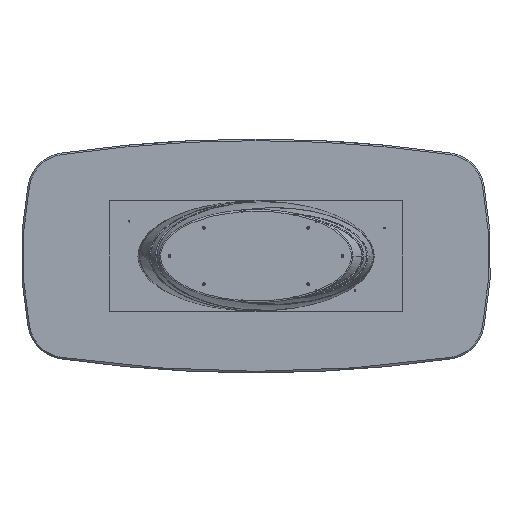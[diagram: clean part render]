
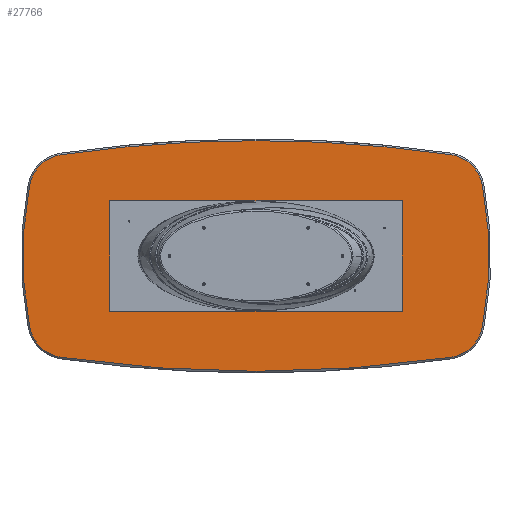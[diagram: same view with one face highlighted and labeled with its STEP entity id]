
A CAD part, front view. The second image highlights one B-rep face of the part: STEP entity #27766.
In plain terms, the highlighted planar face has unit normal (0, -1, 0).
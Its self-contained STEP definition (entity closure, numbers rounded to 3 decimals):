
#253 = VERTEX_POINT ( 'NONE', #37243 ) ;
#862 = CIRCLE ( 'NONE', #10585, 192. ) ;
#972 = CARTESIAN_POINT ( 'NONE',  ( 963.472, 50., 325.885 ) ) ;
#1480 = CIRCLE ( 'NONE', #9306, 192. ) ;
#1682 = ORIENTED_EDGE ( 'NONE', *, *, #22500, .T. ) ;
#2405 = CARTESIAN_POINT ( 'NONE',  ( 1151.911, 50., -362.691 ) ) ;
#2560 = CIRCLE ( 'NONE', #10443, 6942. ) ;
#3512 = EDGE_CURVE ( 'NONE', #4484, #36322, #17695, .T. ) ;
#3696 = AXIS2_PLACEMENT_3D ( 'NONE', #12539, #29496, #30053 ) ;
#3808 = AXIS2_PLACEMENT_3D ( 'NONE', #27760, #16531, #22257 ) ;
#4463 = CARTESIAN_POINT ( 'NONE',  ( -990.878, 50., -515.919 ) ) ;
#4484 = VERTEX_POINT ( 'NONE', #33452 ) ;
#5920 = DIRECTION ( 'NONE',  ( 0., 1., 0. ) ) ;
#6233 = ORIENTED_EDGE ( 'NONE', *, *, #21242, .T. ) ;
#6295 = CARTESIAN_POINT ( 'NONE',  ( -481.736, 50., -3014.558 ) ) ;
#6430 = CARTESIAN_POINT ( 'NONE',  ( 963.472, 50., -325.885 ) ) ;
#7130 = CARTESIAN_POINT ( 'NONE',  ( -963.472, 50., 325.885 ) ) ;
#7313 = DIRECTION ( 'NONE',  ( 0., 0., 1. ) ) ;
#7488 = CIRCLE ( 'NONE', #12375, 1892. ) ;
#8101 = CIRCLE ( 'NONE', #22720, 192. ) ;
#8375 = DIRECTION ( 'NONE',  ( 0., 0., 1. ) ) ;
#9078 = VERTEX_POINT ( 'NONE', #2405 ) ;
#9306 = AXIS2_PLACEMENT_3D ( 'NONE', #7130, #12667, #7313 ) ;
#10443 = AXIS2_PLACEMENT_3D ( 'NONE', #19406, #28155, #28342 ) ;
#10585 = AXIS2_PLACEMENT_3D ( 'NONE', #6430, #18433, #32895 ) ;
#10647 = ORIENTED_EDGE ( 'NONE', *, *, #13109, .T. ) ;
#11211 = AXIS2_PLACEMENT_3D ( 'NONE', #972, #24948, #24579 ) ;
#11239 = CARTESIAN_POINT ( 'NONE',  ( -963.472, 50., -325.885 ) ) ;
#12375 = AXIS2_PLACEMENT_3D ( 'NONE', #20342, #17105, #28719 ) ;
#12539 = CARTESIAN_POINT ( 'NONE',  ( 0., 50., -6355. ) ) ;
#12667 = DIRECTION ( 'NONE',  ( 0., -1., 0. ) ) ;
#12731 = ORIENTED_EDGE ( 'NONE', *, *, #25200, .T. ) ;
#12907 = CARTESIAN_POINT ( 'NONE',  ( 990.878, 50., -515.919 ) ) ;
#13109 = EDGE_CURVE ( 'NONE', #26841, #4484, #2560, .T. ) ;
#16026 = VERTEX_POINT ( 'NONE', #19791 ) ;
#16531 = DIRECTION ( 'NONE',  ( 0., -1., 0. ) ) ;
#17105 = DIRECTION ( 'NONE',  ( 0., -1., 0. ) ) ;
#17177 = DIRECTION ( 'NONE',  ( 0., 0., 1. ) ) ;
#17343 = CARTESIAN_POINT ( 'NONE',  ( -990.878, 50., 515.919 ) ) ;
#17695 = CIRCLE ( 'NONE', #3696, 6942. ) ;
#18433 = DIRECTION ( 'NONE',  ( 0., -1., 0. ) ) ;
#19406 = CARTESIAN_POINT ( 'NONE',  ( 0., 50., -6355. ) ) ;
#19489 = CARTESIAN_POINT ( 'NONE',  ( 990.878, 50., 515.919 ) ) ;
#19664 = CARTESIAN_POINT ( 'NONE',  ( 1151.911, 50., 362.691 ) ) ;
#19791 = CARTESIAN_POINT ( 'NONE',  ( -1151.911, 50., -362.691 ) ) ;
#20342 = CARTESIAN_POINT ( 'NONE',  ( 705., 50., 0. ) ) ;
#20899 = AXIS2_PLACEMENT_3D ( 'NONE', #37341, #34671, #8375 ) ;
#21242 = EDGE_CURVE ( 'NONE', #30596, #30388, #29964, .T. ) ;
#21896 = VERTEX_POINT ( 'NONE', #19664 ) ;
#22257 = DIRECTION ( 'NONE',  ( 0., 0., 1. ) ) ;
#22500 = EDGE_CURVE ( 'NONE', #16026, #30596, #8101, .T. ) ;
#22720 = AXIS2_PLACEMENT_3D ( 'NONE', #11239, #26090, #37699 ) ;
#24579 = DIRECTION ( 'NONE',  ( 0., 0., 1. ) ) ;
#24948 = DIRECTION ( 'NONE',  ( 0., -1., 0. ) ) ;
#25200 = EDGE_CURVE ( 'NONE', #30388, #9078, #862, .T. ) ;
#25792 = AXIS2_PLACEMENT_3D ( 'NONE', #6295, #5920, #17177 ) ;
#26090 = DIRECTION ( 'NONE',  ( 0., -1., 0. ) ) ;
#26488 = ORIENTED_EDGE ( 'NONE', *, *, #36855, .T. ) ;
#26841 = VERTEX_POINT ( 'NONE', #19489 ) ;
#27033 = EDGE_LOOP ( 'NONE', ( #35571, #10647, #32669, #27505, #26488, #1682, #6233, #12731, #31443 ) ) ;
#27505 = ORIENTED_EDGE ( 'NONE', *, *, #30823, .T. ) ;
#27760 = CARTESIAN_POINT ( 'NONE',  ( 0., 50., 6355. ) ) ;
#27766 = ADVANCED_FACE ( 'NONE', ( #34697 ), #32391, .F. ) ;
#28155 = DIRECTION ( 'NONE',  ( 0., -1., 0. ) ) ;
#28342 = DIRECTION ( 'NONE',  ( 0., 0., 1. ) ) ;
#28719 = DIRECTION ( 'NONE',  ( 0., 0., 1. ) ) ;
#29405 = EDGE_CURVE ( 'NONE', #21896, #26841, #35562, .T. ) ;
#29496 = DIRECTION ( 'NONE',  ( 0., -1., 0. ) ) ;
#29964 = CIRCLE ( 'NONE', #3808, 6942. ) ;
#30053 = DIRECTION ( 'NONE',  ( 0., 0., 1. ) ) ;
#30388 = VERTEX_POINT ( 'NONE', #12907 ) ;
#30596 = VERTEX_POINT ( 'NONE', #4463 ) ;
#30823 = EDGE_CURVE ( 'NONE', #36322, #253, #1480, .T. ) ;
#31443 = ORIENTED_EDGE ( 'NONE', *, *, #36380, .T. ) ;
#32391 = PLANE ( 'NONE',  #25792 ) ;
#32436 = CIRCLE ( 'NONE', #20899, 1892. ) ;
#32669 = ORIENTED_EDGE ( 'NONE', *, *, #3512, .T. ) ;
#32895 = DIRECTION ( 'NONE',  ( 0., 0., 1. ) ) ;
#33452 = CARTESIAN_POINT ( 'NONE',  ( 0., 50., 587. ) ) ;
#34671 = DIRECTION ( 'NONE',  ( 0., -1., 0. ) ) ;
#34697 = FACE_OUTER_BOUND ( 'NONE', #27033, .T. ) ;
#35562 = CIRCLE ( 'NONE', #11211, 192. ) ;
#35571 = ORIENTED_EDGE ( 'NONE', *, *, #29405, .T. ) ;
#36322 = VERTEX_POINT ( 'NONE', #17343 ) ;
#36380 = EDGE_CURVE ( 'NONE', #9078, #21896, #32436, .T. ) ;
#36855 = EDGE_CURVE ( 'NONE', #253, #16026, #7488, .T. ) ;
#37243 = CARTESIAN_POINT ( 'NONE',  ( -1151.911, 50., 362.691 ) ) ;
#37341 = CARTESIAN_POINT ( 'NONE',  ( -705., 50., 0. ) ) ;
#37699 = DIRECTION ( 'NONE',  ( 0., 0., 1. ) ) ;
